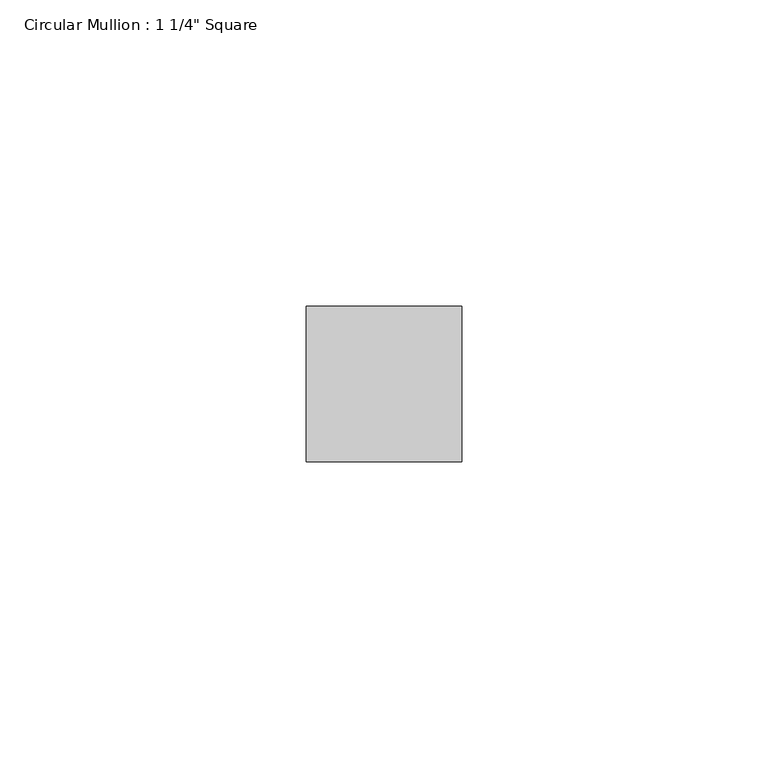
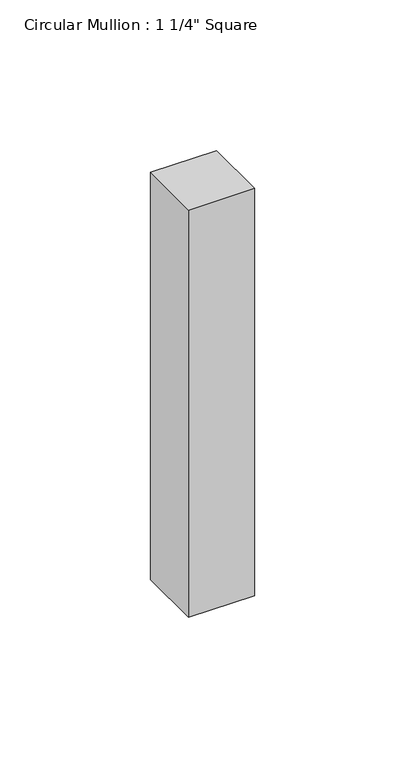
"""IFC4 building model written with IfcOpenShell, lengths in millimetres: member geometry."""

from ifc_helpers import new_model, si_unit, frame, origin, place, context, project, spatial, polyline, outline, extrude, source, transform, mapped, element, save


def member_cc7f9b0f(model_context):
    return source(origin(), model_context, "Body", "SweptSolid", [
        extrude(outline(polyline([(12.7, 12.7), (12.7, -12.7), (-12.7, -12.7), (-12.7, 12.7), (12.7, 12.7)])), frame((0.0, 0.0, -165.0999997), z_axis=(0.0, 0.0, 1.0), x_axis=(1.0, 0.0, 0.0)), (0.0, 0.0, 1.0), 165.0999997),
    ])


if __name__ == "__main__":
    model = new_model("IFC4")
    model_context = context("Model", 3, world=origin())
    ifc_project = project(units=[si_unit("LENGTHUNIT", "METRE", prefix="MILLI")], contexts=[model_context])
    site = spatial("IfcSite", under=ifc_project)
    building = spatial("IfcBuilding", under=site)
    placement = place(None, origin())
    member_shape = member_cc7f9b0f(model_context)
    element("IfcMember", 1, ObjectType="Circular Mullion : 1 1/4\" Square", at=placement, inside=building, context=model_context, shape_type="MappedRepresentation", body=[
        mapped(member_shape, transform((0.0, 0.0, 0.0), x_axis=(1.0, 0.0, 0.0), y_axis=(0.0, 1.0, 0.0), z_axis=(0.0, 0.0, 1.0))),
    ])
    save(model, "model.ifc")
